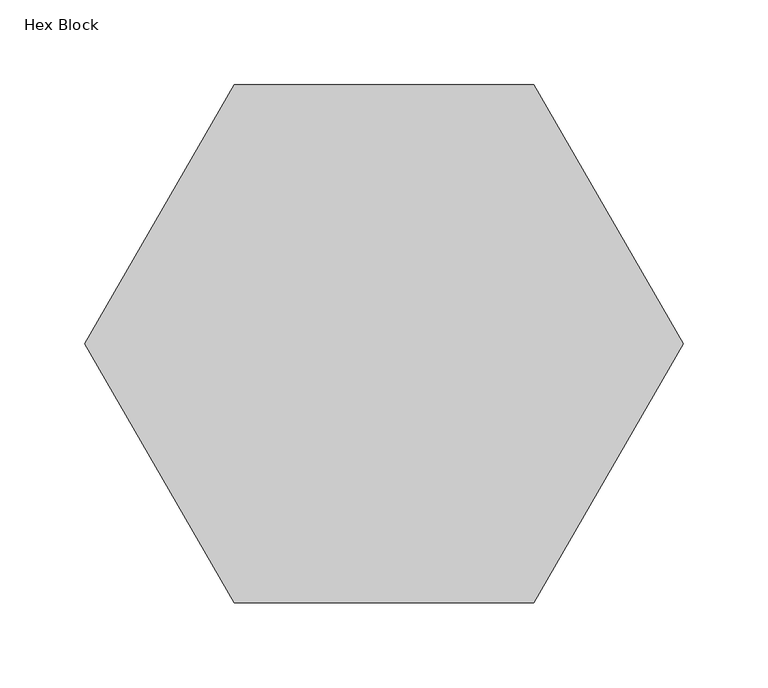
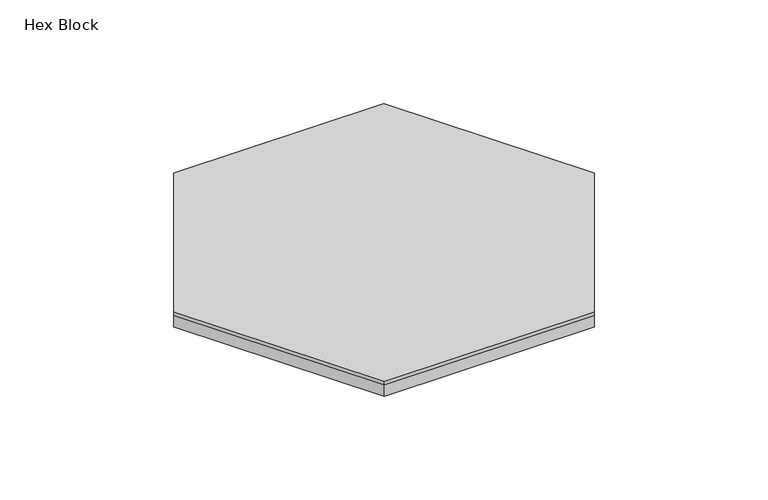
"""IFC4 building model written with IfcOpenShell, lengths in millimetres: proxy geometry, FilzFelt_Hex_Block : Hex Block."""

import ifcopenshell
import ifcopenshell.guid

model = None  # the IFC model being written
_history = None  # IfcOwnerHistory: only IFC2X3 demands one
_inside = {}  # id of a spatial element -> (the spatial element, [elements in it])
_under = {}  # id of a project, library or spatial element -> (it, [spatial elements below it])
_declared = {}  # id of a project -> (the project, [libraries it declares])
_typed = {}  # id of a type object -> (the type object, [elements of that type])
_made_of = {}  # id of a material, layer set ... -> (it, [elements and type objects made of it])


def new_model(schema):
    """Start an empty IFC model of exactly this schema.

    Asked for "IFC4X3", IfcOpenShell would pick the latest addendum, in which some entities
    have other attributes; the version numbers below select the first issue.
    IFC2X3 requires an IfcOwnerHistory on every rooted entity: one is made here for all.
    """
    global model, _history
    if schema == "IFC4X3":
        model = ifcopenshell.file(schema_version=(4, 3, 0, 0))
    else:
        model = ifcopenshell.file(schema=schema)
    _inside.clear()
    _under.clear()
    _declared.clear()
    _typed.clear()
    _made_of.clear()
    _history = None
    if model.schema == "IFC2X3":
        org = make("IfcOrganization", Name="unknown")
        user = make(
            "IfcPersonAndOrganization",
            ThePerson=make("IfcPerson", FamilyName="unknown"),
            TheOrganization=org,
        )
        app = make(
            "IfcApplication",
            ApplicationDeveloper=org,
            Version="unknown",
            ApplicationFullName="unknown",
            ApplicationIdentifier="unknown",
        )
        _history = make(
            "IfcOwnerHistory",
            OwningUser=user,
            OwningApplication=app,
            ChangeAction="ADDED",
            CreationDate=0,
        )
    return model


def make(cls, **values):
    """One entity of the class cls with the attributes given. An attribute that is None is left unset."""
    return model.create_entity(
        cls, **{name: value for name, value in values.items() if value is not None}
    )


def rooted(cls, **values):
    """An entity with a GlobalId (a new one), such as an element, a storey or a relation."""
    return make(cls, GlobalId=ifcopenshell.guid.new(), OwnerHistory=_history, **values)


def si_unit(unit_type, name, prefix=None):
    """IfcSIUnit, for example si_unit("LENGTHUNIT", "METRE", prefix="MILLI")."""
    return make("IfcSIUnit", UnitType=unit_type, Prefix=prefix, Name=name)


def assignment(units):
    """IfcUnitAssignment: the units of a project."""
    return None if units is None else make("IfcUnitAssignment", Units=units)


def point(xyz):
    """IfcCartesianPoint."""
    return None if xyz is None else make("IfcCartesianPoint", Coordinates=xyz)


def direction(xyz):
    """IfcDirection."""
    return None if xyz is None else make("IfcDirection", DirectionRatios=xyz)


def frame(location, z_axis=None, x_axis=None):
    """IfcAxis2Placement3D, a coordinate frame: its origin and axes. An axis left out is left unset."""
    return make(
        "IfcAxis2Placement3D",
        Location=point(location),
        Axis=direction(z_axis),
        RefDirection=direction(x_axis),
    )


def origin():
    """The frame at (0, 0, 0) with its axes left unset."""
    return frame((0.0, 0.0, 0.0))


def origin_with_axes():
    """The frame at (0, 0, 0) with the z axis (0, 0, 1) and the x axis (1, 0, 0) written out."""
    return frame((0.0, 0.0, 0.0), z_axis=(0.0, 0.0, 1.0), x_axis=(1.0, 0.0, 0.0))


def place(relative_to, where):
    """IfcLocalPlacement: puts the frame where relative to a parent placement (None: the world)."""
    return make(
        "IfcLocalPlacement", PlacementRelTo=relative_to, RelativePlacement=where
    )


def context(
    kind, dimensions, precision=None, world=None, true_north=None, identifier=None
):
    """IfcGeometricRepresentationContext, for example the 3D "Model" context."""
    return make(
        "IfcGeometricRepresentationContext",
        ContextIdentifier=identifier,
        ContextType=kind,
        CoordinateSpaceDimension=dimensions,
        Precision=precision,
        WorldCoordinateSystem=world,
        TrueNorth=true_north,
    )


def project(units=None, contexts=None):
    """IfcProject with its units and contexts."""
    return rooted(
        "IfcProject",
        Name="project",
        RepresentationContexts=contexts,
        UnitsInContext=assignment(units),
    )


def spatial(cls, under=None, at=None, **own):
    """A site, building, storey or space (cls), placed at a placement, below another one or the project."""
    s = rooted(cls, ObjectPlacement=at, **own)
    if under is not None:
        _under.setdefault(under.id(), (under, []))[1].append(s)
    return s


def polyline(points):
    """IfcPolyline through the points."""
    return make("IfcPolyline", Points=[point(p) for p in points])


def outline(outer, holes=None, kind="AREA"):
    """IfcArbitraryClosedProfileDef: a profile drawn as a closed curve; with holes, ...WithVoids."""
    if holes is None:
        return make("IfcArbitraryClosedProfileDef", ProfileType=kind, OuterCurve=outer)
    return make(
        "IfcArbitraryProfileDefWithVoids",
        ProfileType=kind,
        OuterCurve=outer,
        InnerCurves=holes,
    )


def extrude(swept, where, along, depth):
    """IfcExtrudedAreaSolid: the profile swept, set in the frame where, extruded along a direction by depth."""
    return make(
        "IfcExtrudedAreaSolid",
        SweptArea=swept,
        Position=where,
        ExtrudedDirection=direction(along),
        Depth=depth,
    )


def shape(context_of_items, identifier, shape_type, items):
    """IfcShapeRepresentation: the items that make up one representation, for example the "Body"."""
    return make(
        "IfcShapeRepresentation",
        ContextOfItems=context_of_items,
        RepresentationIdentifier=identifier,
        RepresentationType=shape_type,
        Items=items,
    )


def source(mapping_origin, context_of_items, identifier, shape_type, items):
    """IfcRepresentationMap: a shape defined once, which mapped items show again and again."""
    return make(
        "IfcRepresentationMap",
        MappingOrigin=mapping_origin,
        MappedRepresentation=shape(context_of_items, identifier, shape_type, items),
    )


def transform(
    local_origin,
    x_axis=None,
    y_axis=None,
    z_axis=None,
    scale=None,
    scale2=None,
    scale3=None,
    uniform=True,
):
    """IfcCartesianTransformationOperator3D, or its non-uniform kind. x_axis, y_axis, z_axis: its Axis1, 2, 3."""
    if uniform:
        return make(
            "IfcCartesianTransformationOperator3D",
            Axis1=direction(x_axis),
            Axis2=direction(y_axis),
            LocalOrigin=point(local_origin),
            Scale=scale,
            Axis3=direction(z_axis),
        )
    return make(
        "IfcCartesianTransformationOperator3DnonUniform",
        Axis1=direction(x_axis),
        Axis2=direction(y_axis),
        LocalOrigin=point(local_origin),
        Scale=scale,
        Axis3=direction(z_axis),
        Scale2=scale2,
        Scale3=scale3,
    )


def mapped(mapping_source, mapping_target):
    """IfcMappedItem: shows the shape of a source again, moved by a transform."""
    return make(
        "IfcMappedItem", MappingSource=mapping_source, MappingTarget=mapping_target
    )


def made_of(thing, what):
    """Note that an element or type object is made of a material, layer set ...; save() writes the relation."""
    if what is not None:
        _made_of.setdefault(what.id(), (what, []))[1].append(thing)
    return thing


def element(
    cls,
    number,
    at=None,
    inside=None,
    cuts=None,
    type_object=None,
    material=None,
    context=None,
    identifier="Body",
    shape_type=None,
    held_by="IfcProductDefinitionShape",
    body=None,
    shapes=None,
    **own,
):
    """One element of the class cls, such as IfcWall. Its Tag is "e" and its number.

    at: its placement. inside: the storey or other place that contains it. cuts: it is an
    opening in that element (IfcRelVoidsElement). A single representation is given by context,
    identifier, shape_type and body (its items); several are given by shapes. held_by: the class
    of the entity that holds the representations. save() writes the other relations.
    """
    e = rooted(cls, Tag="e%d" % number, ObjectPlacement=at, **own)
    if body is not None:
        shapes = [shape(context, identifier, shape_type, body)]
    if shapes is not None:
        e.Representation = make(held_by, Representations=shapes)
    if inside is not None:
        _inside.setdefault(inside.id(), (inside, []))[1].append(e)
    if cuts is not None:
        rooted(
            "IfcRelVoidsElement", RelatingBuildingElement=cuts, RelatedOpeningElement=e
        )
    if type_object is not None:
        _typed.setdefault(type_object.id(), (type_object, []))[1].append(e)
    return made_of(e, material)


def aggregate(whole, parts):
    """IfcRelAggregates: a whole, such as a stair, and the parts it consists of."""
    return rooted("IfcRelAggregates", RelatingObject=whole, RelatedObjects=parts)


def save(model, path):
    """Write the relations noted so far, then the file.

    IfcRelAggregates (storeys below a building ...), IfcRelContainedInSpatialStructure (elements
    in a storey), IfcRelDefinesByType, IfcRelAssociatesMaterial and IfcRelDeclares: one each for
    every whole, place, type object, material and project.
    """
    for whole, parts in _under.values():
        aggregate(whole, parts)
    for where, things in _inside.values():
        rooted(
            "IfcRelContainedInSpatialStructure",
            RelatedElements=things,
            RelatingStructure=where,
        )
    for kind, things in _typed.values():
        rooted("IfcRelDefinesByType", RelatedObjects=things, RelatingType=kind)
    for what, things in _made_of.values():
        rooted("IfcRelAssociatesMaterial", RelatedObjects=things, RelatingMaterial=what)
    for by, libraries in _declared.values():
        rooted("IfcRelDeclares", RelatingContext=by, RelatedDefinitions=libraries)
    model.write(path)


def hex_block_89ee5a11(model_context):
    return source(origin(), model_context, "Body", "SweptSolid", [
        extrude(outline(polyline([(-175.976362, 0.0), (-87.988181, 152.4), (87.988181, 152.4), (175.976362, 0.0), (87.988181, -152.4), (-87.988181, -152.4), (-175.976362, 0.0)])), frame((0.0, 0.0, 10.0210937), z_axis=(0.0, 0.0, 1.0), x_axis=(1.0, 0.0, 0.0)), (0.0, 0.0, 1.0), 2.9765625),
        extrude(outline(polyline([(175.976362, 0.0), (87.988181, -152.4), (-87.988181, -152.4), (-175.976362, 0.0), (-87.988181, 152.4), (87.988181, 152.4), (175.976362, 0.0)])), origin_with_axes(), (0.0, 0.0, 1.0), 10.0210938),
    ])


if __name__ == "__main__":
    model = new_model("IFC4")
    model_context = context("Model", 3, world=origin())
    ifc_project = project(units=[si_unit("LENGTHUNIT", "METRE", prefix="MILLI")], contexts=[model_context])
    site = spatial("IfcSite", under=ifc_project)
    building = spatial("IfcBuilding", under=site)
    placement = place(None, origin())
    hex_block_shape = hex_block_89ee5a11(model_context)
    element("IfcBuildingElementProxy", 1, Name="FilzFelt_Hex_Block : Hex Block", ObjectType="FilzFelt_Hex_Block : Hex Block", at=placement, inside=building, context=model_context, shape_type="MappedRepresentation", body=[
        mapped(hex_block_shape, transform((0.0, 0.0, 0.0), x_axis=(1.0, 0.0, 0.0), y_axis=(0.0, 1.0, 0.0), z_axis=(0.0, 0.0, 1.0))),
    ])
    save(model, "model.ifc")
